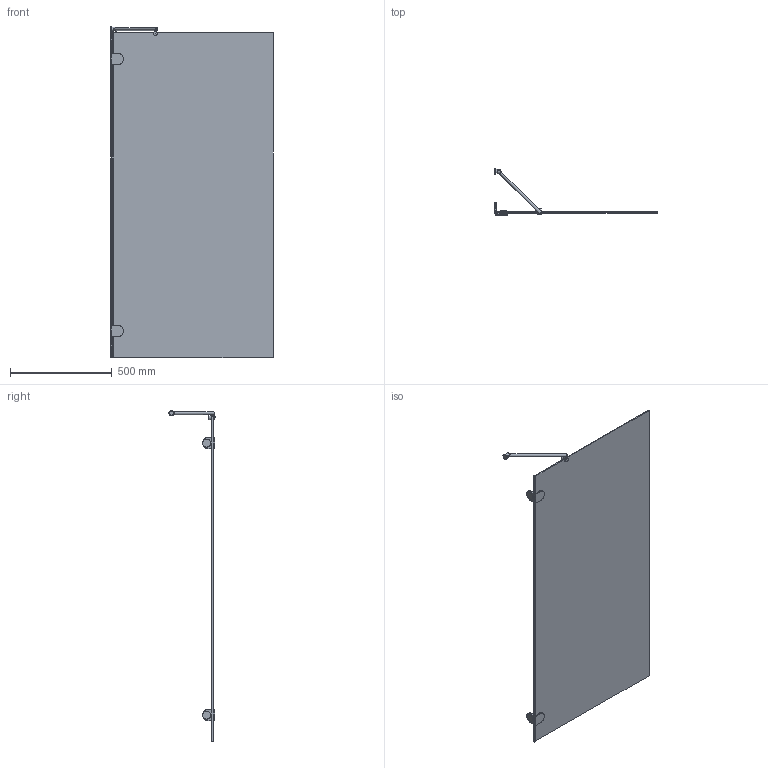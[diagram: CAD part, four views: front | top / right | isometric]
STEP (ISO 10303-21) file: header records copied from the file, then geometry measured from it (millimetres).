
FILE_DESCRIPTION(/* description */ (''),/* implementation_level */ '2;1');
FILE_NAME(/* name */ 'E:\Работа\Сергей\Душевые кабинки\! Работа\LUX PEARL GV-001A\LUX PEARL GV-001A левая модель\LUX PEARL GV-001A ЛЕВАЯ-3D.stp',/* time_stamp */ '2018-02-21T20:22:54+03:00',/* author */ ('PC'),/* organization */ (''),/* preprocessor_version */ 'ST-DEVELOPER v15.2',/* originating_system */ 'Autodesk Inventor 2014',/* authorisation */ '');
FILE_SCHEMA (('AUTOMOTIVE_DESIGN { 1 0 10303 214 3 1 1 }'));
Length unit declared in the file: millimetre
Products named in the file (1): LUX PEARL GV-001A ЛЕВАЯ-3D
Bounding box: 801 x 227.4 x 1630.5 mm (x, y, z)
Volume: 7891297.3 mm3; surface area: 2648259.4 mm2
Topology: 2 solids, 2 shells, 113 faces, 306 edges, 206 vertices
Faces by surface type: plane 65, cylinder 31, bspline 6, torus 5, sphere 4, cone 2
Full cylindrical faces by diameter (mm): 12 x1, 15 x1, 20 x2, 26 x1, 30 x2, 35 x2, 40 x2
Entity records: 3822 total; most frequent: CARTESIAN_POINT 921, DIRECTION 567, ORIENTED_EDGE 546, EDGE_CURVE 273, AXIS2_PLACEMENT_3D 204, VERTEX_POINT 194, LINE 159, VECTOR 159
